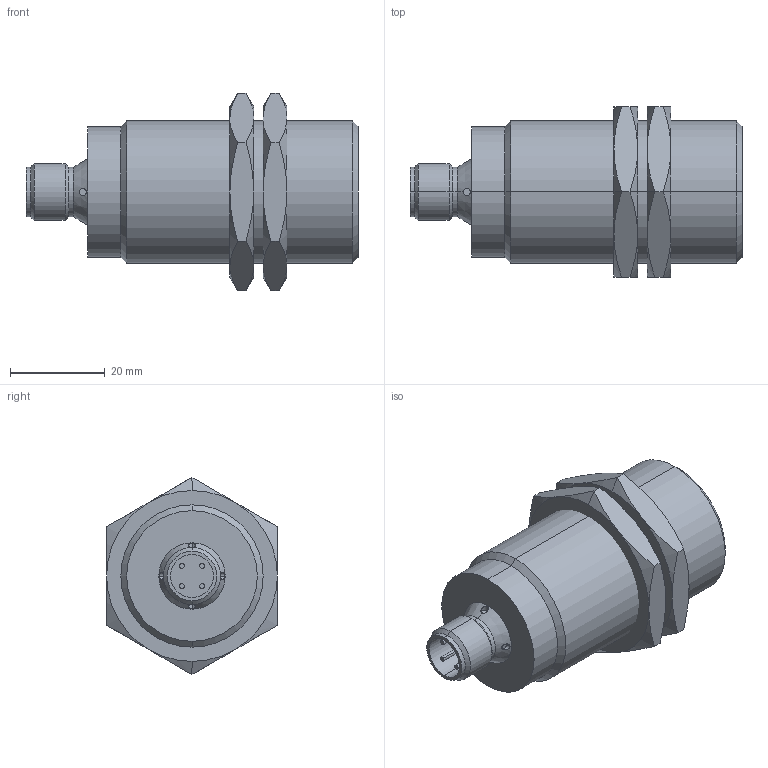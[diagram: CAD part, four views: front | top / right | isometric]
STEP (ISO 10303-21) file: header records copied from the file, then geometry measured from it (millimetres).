
FILE_DESCRIPTION(('starvars output'),'2;1');
FILE_NAME('II5842_3.stp','15:48:32 2007/04/16',( 'Thomas Industrial Network Germany GmbH'),( 'Thomas Industrial Network Germany GmbH'),'unknown preprocess','ACIS' ,'unknown authorization');
FILE_SCHEMA(('CONFIG_CONTROL_DESIGN {UNKNOWN IMPLEMENTATION LEVEL}'));
Length unit declared in the file: millimetre
Products named in the file (5): PRODUCT_ID_337; PRODUCT_ID_338; PRODUCT_ID_339; PRODUCT_ID_340; PRODUCT_ID_341
Bounding box: 70 x 36 x 41.57 mm (x, y, z)
Volume: 45979 mm3; surface area: 14260.9 mm2
Topology: 6 solids, 6 shells, 120 faces, 248 edges, 142 vertices
Faces by surface type: cylinder 44, cone 42, plane 32, torus 2
Entity records: 3051 total; most frequent: CARTESIAN_POINT 626, ORIENTED_EDGE 496, DIRECTION 300, EDGE_CURVE 248, VERTEX_POINT 142, EDGE_LOOP 132, FACE_BOUND 132, ADVANCED_FACE 120
